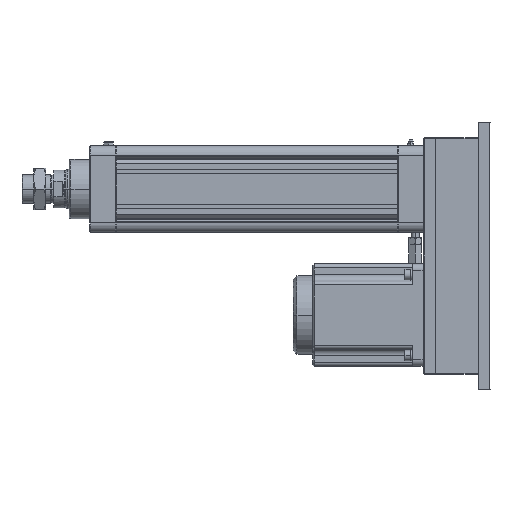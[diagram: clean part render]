
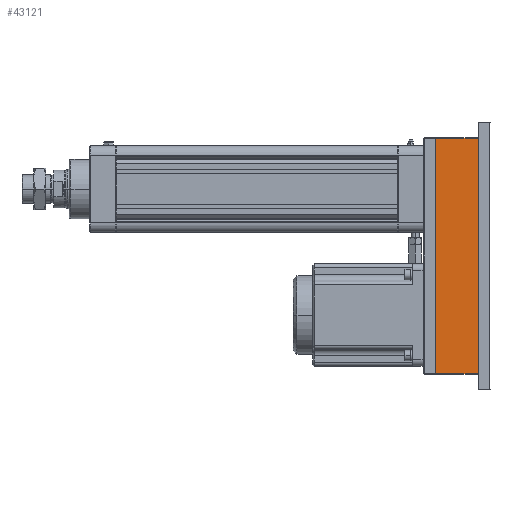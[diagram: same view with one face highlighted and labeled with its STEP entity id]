
A CAD part, left-side view. The second image highlights one B-rep face of the part: STEP entity #43121.
In plain terms, the highlighted planar face has unit normal (-1, 0, 0) as drawn and (0, 0, 1) by its records, which use the part's own axes.
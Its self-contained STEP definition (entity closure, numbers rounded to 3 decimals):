
#42781=DIRECTION('',(1.,0.,0.));
#42782=VECTOR('',#42781,299.);
#42783=CARTESIAN_POINT('',(-149.5,-27.,75.));
#42784=LINE('',#42783,#42782);
#42852=DIRECTION('',(0.,-1.,0.));
#42853=VECTOR('',#42852,54.);
#42854=CARTESIAN_POINT('',(-149.5,27.,75.));
#42855=LINE('',#42854,#42853);
#42856=DIRECTION('',(0.,-1.,0.));
#42857=VECTOR('',#42856,54.);
#42858=CARTESIAN_POINT('',(149.5,27.,75.));
#42859=LINE('',#42858,#42857);
#42892=DIRECTION('',(1.,0.,0.));
#42893=VECTOR('',#42892,299.);
#42894=CARTESIAN_POINT('',(-149.5,27.,75.));
#42895=LINE('',#42894,#42893);
#42928=CARTESIAN_POINT('',(-149.5,-27.,75.));
#42930=VERTEX_POINT('',#42928);
#42934=CARTESIAN_POINT('',(-149.5,27.,75.));
#42935=VERTEX_POINT('',#42934);
#42937=CARTESIAN_POINT('',(149.5,-27.,75.));
#42939=VERTEX_POINT('',#42937);
#42940=CARTESIAN_POINT('',(149.5,27.,75.));
#42941=VERTEX_POINT('',#42940);
#43109=CARTESIAN_POINT('',(-150.,-27.,75.));
#43110=DIRECTION('',(0.,0.,1.));
#43111=DIRECTION('',(1.,0.,0.));
#43112=AXIS2_PLACEMENT_3D('',#43109,#43110,#43111);
#43113=PLANE('',#43112);
#43114=ORIENTED_EDGE('',*,*,#43020,.F.);
#43116=ORIENTED_EDGE('',*,*,#43115,.T.);
#43117=ORIENTED_EDGE('',*,*,#43101,.T.);
#43118=ORIENTED_EDGE('',*,*,#42983,.F.);
#43119=EDGE_LOOP('',(#43114,#43116,#43117,#43118));
#43120=FACE_OUTER_BOUND('',#43119,.F.);
#43121=ADVANCED_FACE('',(#43120),#43113,.T.);
#42983=EDGE_CURVE('',#42930,#42939,#42784,.T.);
#43020=EDGE_CURVE('',#42935,#42930,#42855,.T.);
#43101=EDGE_CURVE('',#42941,#42939,#42859,.T.);
#43115=EDGE_CURVE('',#42935,#42941,#42895,.T.);
